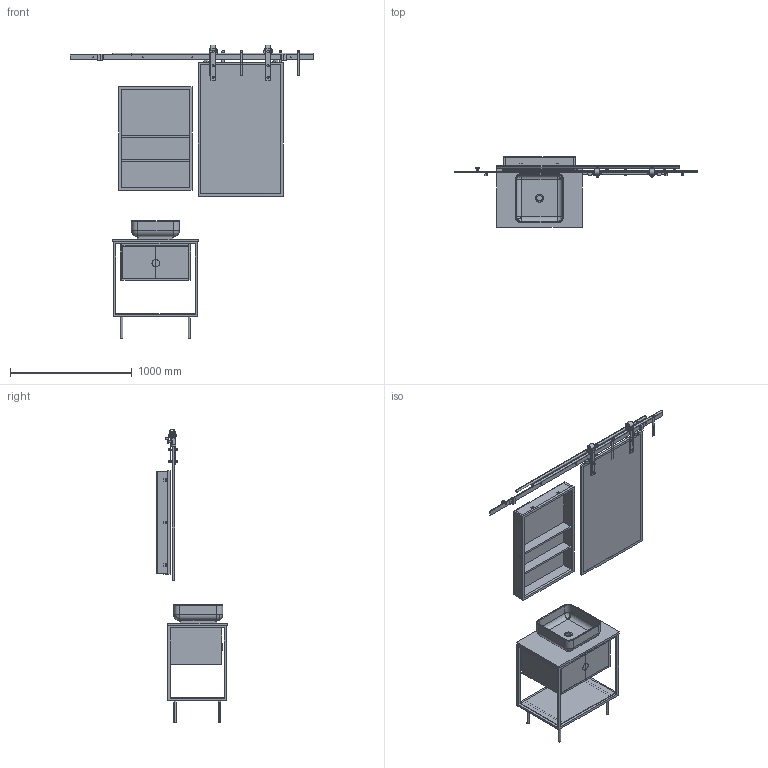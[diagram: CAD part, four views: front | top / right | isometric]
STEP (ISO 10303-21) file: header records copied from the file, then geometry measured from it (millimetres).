
FILE_DESCRIPTION (( 'STEP AP214' ), '1' );
FILE_NAME ('Elli-700.STEP', '2020-07-14T08:48:53', ( '' ), ( '' ), 'SwSTEP 2.0', 'SolidWorks 2020', '' );
FILE_SCHEMA (( 'AUTOMOTIVE_DESIGN' ));
Length unit declared in the file: millimetre
Products named in the file (14): MIRROR-SPACER-1; ELLI-MIRROR-ONLY; Elli-700; ELLI-MIRROR-CUPBOARD; hanger; bracker-1-roller; mirror-holder; RAIL-SPACER-1; ELLI-MIRROR-RAIL; wheel; mirror; spacer
Assembly tree (24 placements, depth 4):
  Elli-700
    Elli-700
    mirror
      ELLI-MIRROR-CUPBOARD
      mirror-holder
        hanger
        wheel
      bracker-1-roller  x2
      spacer  x5
      ELLI-MIRROR-RAIL
      ELLI-MIRROR-ONLY
      RAIL-SPACER-1  x2
      mirror-holder
        hanger
        wheel
      MIRROR-SPACER-1  x4
Bounding box: 2000 x 580 x 2412 mm (x, y, z)
Volume: 56452335.4 mm3; surface area: 10715634.2 mm2
Topology: 85 solids, 85 shells, 810 faces, 1775 edges, 1146 vertices
Faces by surface type: plane 549, cylinder 213, bspline 22, cone 18, sphere 8
Entity records: 19932 total; most frequent: CARTESIAN_POINT 3855, DIRECTION 3127, ORIENTED_EDGE 2886, EDGE_CURVE 1443, LINE 1055, VECTOR 1055, AXIS2_PLACEMENT_3D 1036, VERTEX_POINT 932
